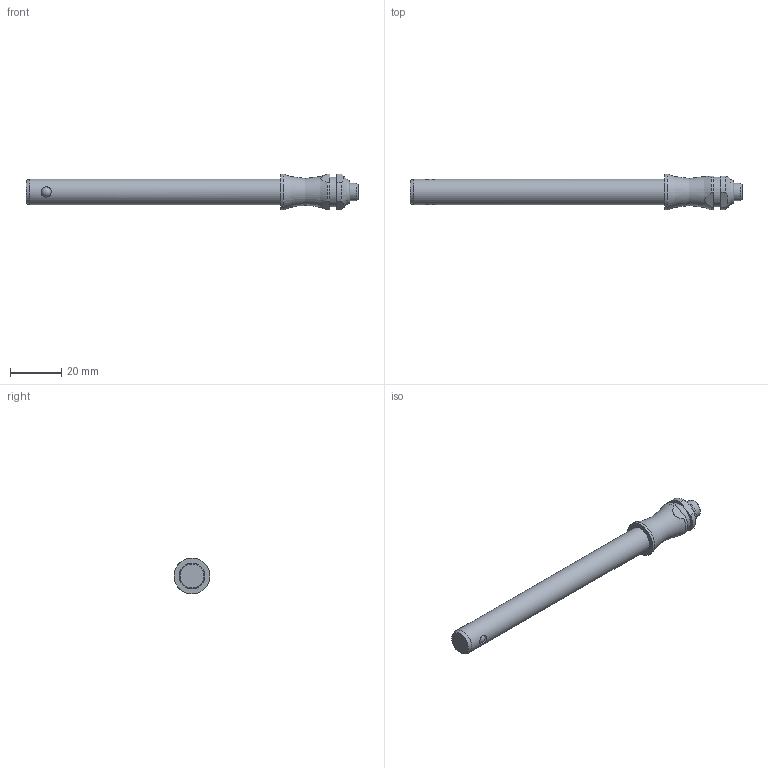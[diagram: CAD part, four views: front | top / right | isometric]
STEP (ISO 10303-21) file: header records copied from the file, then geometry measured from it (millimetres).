
FILE_DESCRIPTION( ( 'STEP AP203' ), '1' );
FILE_NAME( 'C:/Temp/Ganter_Step_05_03_2020/data/3_1/gn113_3/Stainless Steel-Ball lock pin GN 113.3-10-90 (activated).stp', '2020-03-12T08:18:37', ( 'License CC BY-ND 4.0' ), ( 'CADENAS' ), ' ', 'PARTsolutions', ' ' );
FILE_SCHEMA( ( 'CONFIG_CONTROL_DESIGN' ) );
Length unit declared in the file: millimetre
Products named in the file (1): _Stainless Steel-Ball lock pin GN 113.3-10-90 (activated)
Bounding box: 129.75 x 14 x 14 mm (x, y, z)
Volume: 10900.5 mm3; surface area: 4580 mm2
Topology: 1 solids, 1 shells, 30 faces, 72 edges, 45 vertices
Faces by surface type: cylinder 12, plane 11, cone 3, torus 2, sphere 2
Full cylindrical faces by diameter (mm): 4 x2, 7 x1, 10 x1, 11.6 x1, 14 x1
Entity records: 988 total; most frequent: CARTESIAN_POINT 341, DIRECTION 130, ORIENTED_EDGE 102, AXIS2_PLACEMENT_3D 56, EDGE_CURVE 51, EDGE_LOOP 46, VERTEX_POINT 39, FACE_OUTER_BOUND 38
